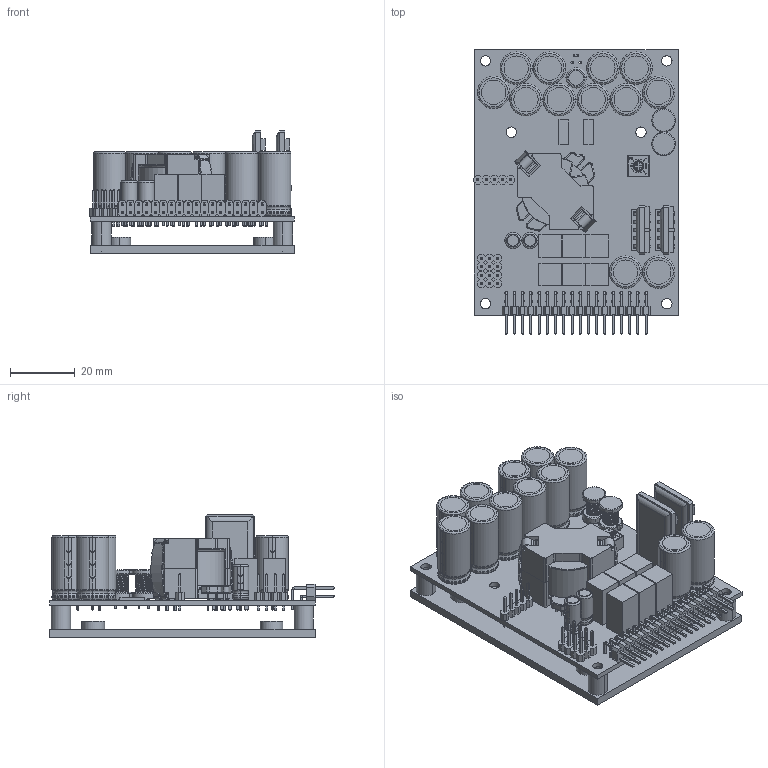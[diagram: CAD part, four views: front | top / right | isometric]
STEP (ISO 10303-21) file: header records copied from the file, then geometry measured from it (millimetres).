
FILE_DESCRIPTION (( 'STEP AP214' ), '1' );
FILE_NAME ('NCx500 OEM 01xx.step', '2023-08-29T08:08:56', ( '' ), ( '' ), 'SwSTEP 2.0', 'SolidWorks 2023', '' );
FILE_SCHEMA (( 'AUTOMOTIVE_DESIGN' ));
Length unit declared in the file: millimetre
Products named in the file (62): rm10_bobin.step; Header_1x5MV.step; C10.step; T8.step; C38.step; J15.step; NCx500 OEM 01xx; L6.step; C26.step; C27.step; Push-in_nut_-_Metric_M3.step; C25.step; T2.step; ECAP_10x20_5.step; C13.step; U6.step; ECAP_6.3x11_2.5.step; RM10.step; U5.step; C21.step; HxR.step; RM10_coil.step; C36.step; C11.step; 6417904400.step; ECAP_5x11_2.step; R92.step; LCL1.step; C85.step; Hsink_SAA6L8W0H2T3.step; C20.step; SW3dPS-LED_SMD0603.step; 6417899200.step; Con_2x18p_MCon_2x16p_MH_2,54mm_PCB._2,54mm_PCB.step; C55.step; Spacer_3.5x6x7.3mm.step; C56.step; RM10_ferrite.step; Open CASCADE STEP translator 6.8 1.1.1.step; SW3dPS-3362P-1-102LF.step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
Assembly tree (90 placements, depth 5):
  NCx500 OEM 01xx
    NCx500 OEM B01.step
      Board.step
        Open CASCADE STEP translator 6.8 1.1.1.step
      U5.step
        HxR.step
      U6.step
        HxR.step
      C85.step
        ECAP_5x11_2.step
      C87.step
        ECAP_5x11_2.step
      J3.step
        Con_2x18p_MCon_2x16p_MH_2,54mm_PCB._2,54mm_PCB.step
      D30.step
        SW3dPS-LED_SMD0603.step
      J11.step
        Header_1x5MV.step
      T8.step
        6417899200.step
          Extruded.step
      T2.step
        6417899200.step
          Extruded.step
      L6.step
        LCL1.step
      L3.step
        RM10.step
          RM10_ferrite.step  x2
          rm10_bobin.step
          RM10_clamper.step  x2
          RM10_coil.step
      L1.step
        LCL1.step
      C36.step
        ECAP_10x20_5.step
      C56.step
        6417904400.step
          Extruded-0.step
      C40.step
        ECAP_10x20_5.step
      C39.step
        ECAP_10x20_5.step
      C37.step
        ECAP_10x20_5.step
      C35.step
        ECAP_10x20_5.step
      C27.step
        6417904400.step
          Extruded-0.step
      C26.step
        6417904400.step
          Extruded-0.step
      C25.step
        6417904400.step
          Extruded-0.step
      C55.step
        6417904400.step
          Extruded-0.step
      C21.step
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Bounding box: 63.1 x 87.98 x 37.88 mm (x, y, z)
Volume: 53907.1 mm3; surface area: 52515.3 mm2
Topology: 57 solids, 95 shells, 3653 faces, 9298 edges, 5892 vertices
Faces by surface type: plane 2229, cylinder 987, torus 263, bspline 92, sphere 60, cone 22
Entity records: 87949 total; most frequent: CARTESIAN_POINT 29551, ORIENTED_EDGE 12500, DIRECTION 10095, EDGE_CURVE 6448, VERTEX_POINT 4099, AXIS2_PLACEMENT_3D 3890, EDGE_LOOP 2988, B_SPLINE_CURVE_WITH_KNOTS 2759
